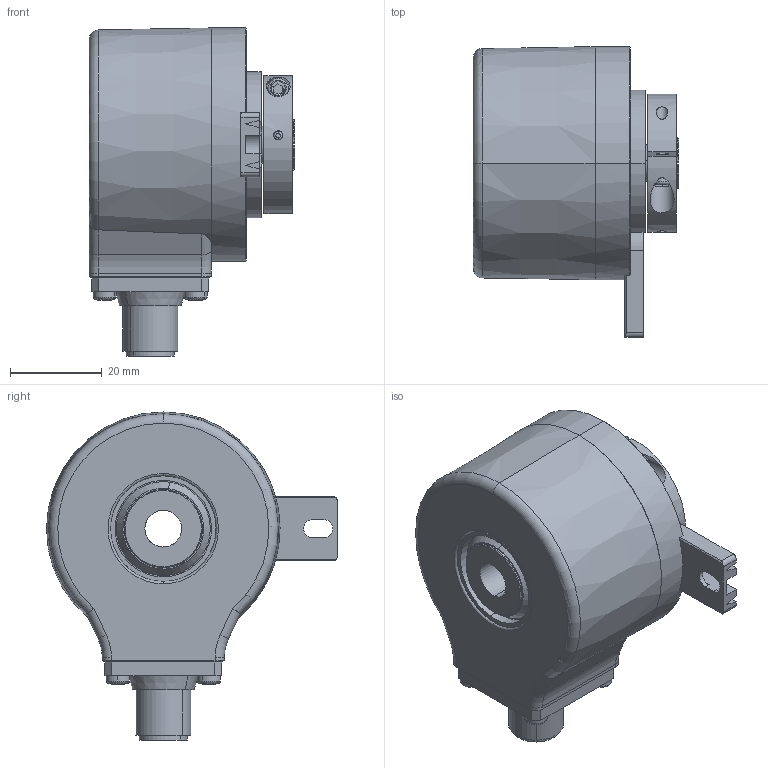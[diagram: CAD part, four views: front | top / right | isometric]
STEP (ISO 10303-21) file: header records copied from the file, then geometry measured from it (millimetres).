
FILE_DESCRIPTION (( 'STEP AP214' ), '1' );
FILE_NAME ('5020.29X2.XXXX.STEP', '2011-01-05T10:40:03', ( 'admin' ), ( 'Fritz Kübler GmbH' ), 'SwSTEP 2.0', 'SolidWorks 2009', '' );
FILE_SCHEMA (( 'AUTOMOTIVE_DESIGN' ));
Length unit declared in the file: millimetre
Products named in the file (1): 5020.29X2.XXXX
Bounding box: 44.7 x 63.3 x 71.4 mm (x, y, z)
Surface area: 18434.4 mm2 (no closed solid volume)
Topology: 0 solids, 25 shells, 297 faces, 867 edges, 580 vertices
Faces by surface type: plane 128, cylinder 101, sphere 24, torus 22, cone 18, bspline 4
Entity records: 13211 total; most frequent: CARTESIAN_POINT 2122, DIRECTION 1743, ORIENTED_EDGE 1459, EDGE_CURVE 835, AXIS2_PLACEMENT_3D 663, VERTEX_POINT 564, LINE 417, VECTOR 417
